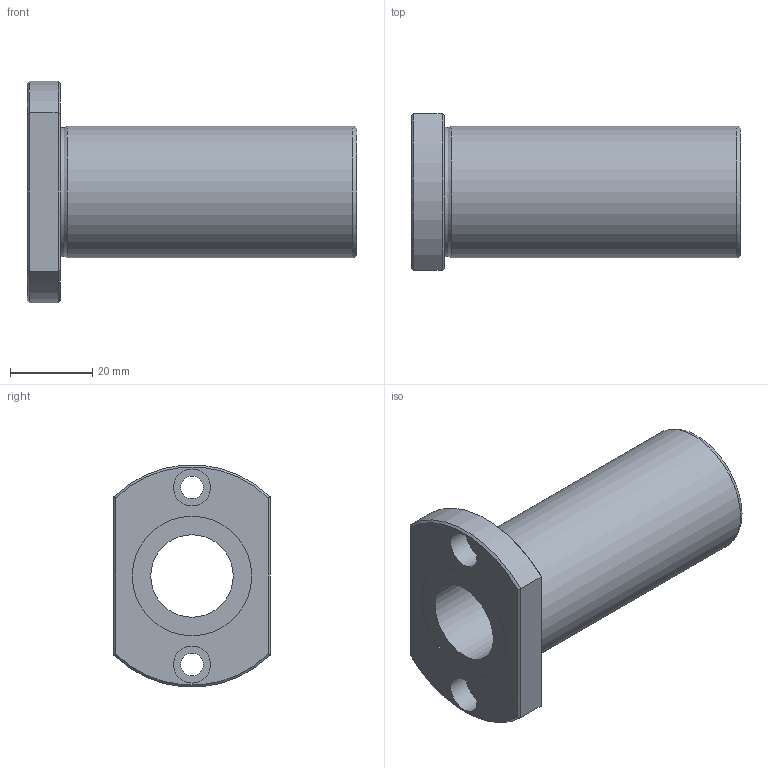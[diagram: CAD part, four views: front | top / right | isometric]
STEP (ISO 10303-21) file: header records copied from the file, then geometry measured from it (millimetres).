
FILE_DESCRIPTION((''),'2;1');
FILE_NAME('D:\製品 (図面)\カタログ用3D\リニアベアリング関連\STEP形式\LFDT\LFDT20.stp','2010-06-03T09:45:35',('Tsuchiya'),(''),'Autodesk Inventor 10','Autodesk Inventor 10','');
FILE_SCHEMA(('AUTOMOTIVE_DESIGN { 1 0 10303 214 1 1 1 1 }'));
Length unit declared in the file: millimetre
Products named in the file (1): LFDT20
Bounding box: 80 x 38 x 53.8 mm (x, y, z)
Volume: 46724.2 mm3; surface area: 16861 mm2
Topology: 1 solids, 1 shells, 29 faces, 56 edges, 34 vertices
Faces by surface type: plane 13, cylinder 10, cone 4, torus 1, bspline 1
Full cylindrical faces by diameter (mm): 5.5 x2, 9 x2, 20 x1, 29 x2, 32 x1
Entity records: 787 total; most frequent: CARTESIAN_POINT 196, DIRECTION 122, ORIENTED_EDGE 92, AXIS2_PLACEMENT_3D 55, EDGE_LOOP 50, EDGE_CURVE 46, VERTEX_POINT 34, FACE_OUTER_BOUND 29
